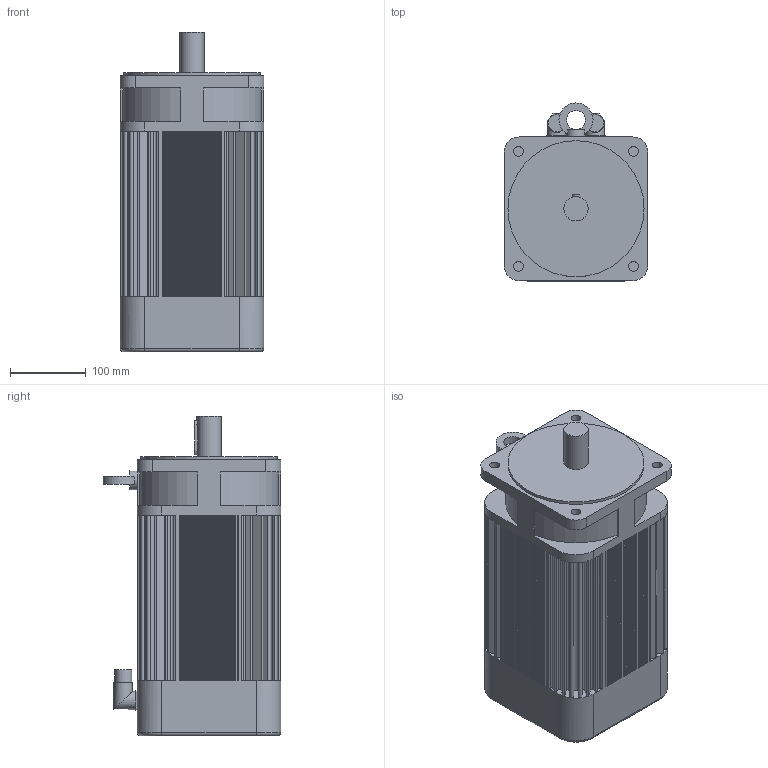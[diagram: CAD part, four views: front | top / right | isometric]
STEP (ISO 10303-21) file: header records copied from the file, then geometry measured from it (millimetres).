
FILE_DESCRIPTION(/* description */ (''),/* implementation_level */ '2;1');
FILE_NAME(/* name */ '\\Lafnas01\disegni\Archivi Lafert\3D\CAD 3D\MODELLI\Assiemi clienti\Serad\Modelli 3D Serad\B100I\Resolver\Res With Brake\B1024Ixx6B052033.ipt.stp',/* time_stamp */ '2015-09-07T10:47:37+02:00',/* author */ ('Pastrello Ylenia'),/* organization */ (''),/* preprocessor_version */ 'ST-DEVELOPER v15.6',/* originating_system */ 'Autodesk Inventor 2015',/* authorisation */ '');
FILE_SCHEMA (('AUTOMOTIVE_DESIGN { 1 0 10303 214 3 1 1 }'));
Length unit declared in the file: millimetre
Products named in the file (1): B1024Ixx6B052033
Bounding box: 190 x 235 x 423 mm (x, y, z)
Volume: 12239081.5 mm3; surface area: 489156.6 mm2
Topology: 1 solids, 1 shells, 608 faces, 1497 edges, 980 vertices
Faces by surface type: plane 499, cylinder 105, torus 4
Full cylindrical faces by diameter (mm): 13 x4, 22.7 x2, 24 x2, 25 x2, 32 x1, 180 x1
Entity records: 17791 total; most frequent: CARTESIAN_POINT 3128, DIRECTION 2992, ORIENTED_EDGE 2962, EDGE_CURVE 1481, LINE 1180, VECTOR 1180, VERTEX_POINT 977, AXIS2_PLACEMENT_3D 906
